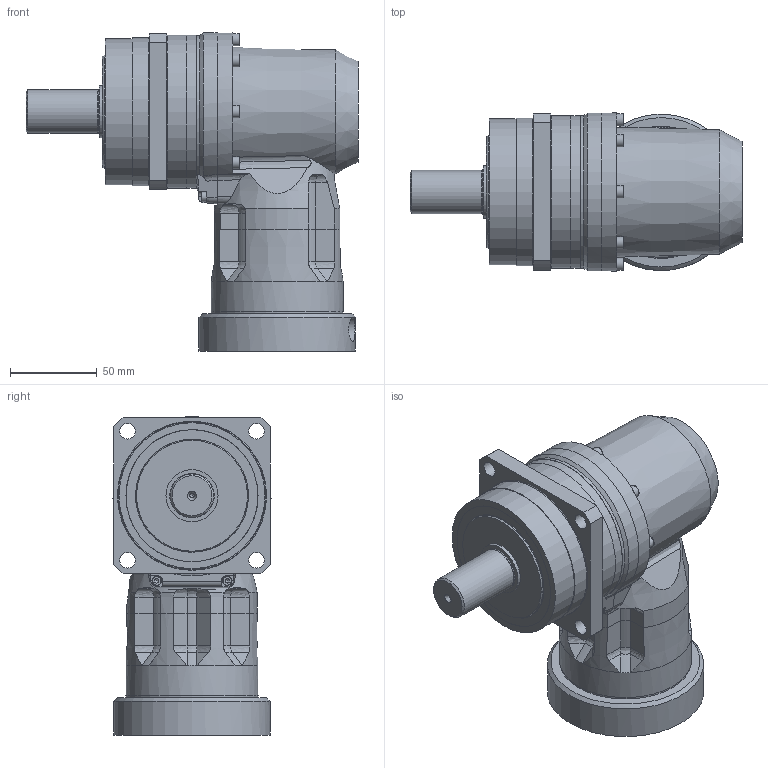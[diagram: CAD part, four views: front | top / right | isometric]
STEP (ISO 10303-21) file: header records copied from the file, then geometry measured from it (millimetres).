
FILE_DESCRIPTION(/* description */ ('ANFX-PK120N-3-E11G'),/* implementation_level */ '2;1');
FILE_NAME(/* name */ 'C:\Users\ADMINI~1\AppData\Local\Temp\MM581880_ANFX-PK120N-3-E11G.stp',/* time_stamp */ '2018-07-11T14:20:01+02:00',/* author */ ('Max'),/* organization */ (''),/* preprocessor_version */ 'ST-DEVELOPER v17',/* originating_system */ 'Autodesk Inventor 2018',/* authorisation */ '');
FILE_SCHEMA (('AUTOMOTIVE_DESIGN { 1 0 10303 214 3 1 1 }'));
Length unit declared in the file: millimetre
Products named in the file (28): MM581594; MMBG0004105; MMCM057LG; MMAF787LG; M204639; M204639-1; M204639-2; M204639-3; M204639-4; MMAP6499G; 202471; M530A30508---G; 211458; 205792; 200409; MMBG0004078; MMCL445LG; MMCM226LG; MAX4840G; MAW8381G; MMBG0004116; MMAF790LG; 212098; 203366; MMAP1654G; 133581; MAW8386G; 200458
Assembly tree (64 placements, depth 4):
  MM581594
    MMBG0004105
      MMCM057LG
      MMAF787LG
      M204639
        M204639-1
        M204639-2
        M204639-3  x2
        M204639-4  x12
      MMAP6499G
      202471
      M530A30508---G
      211458  x2
      205792  x8
      200409  x7
    MMBG0004078
      MMCL445LG
      MMCM226LG
      MAX4840G
      MAW8381G
    MMBG0004116
      MMAF790LG
      212098  x8
      203366  x2
      MMAP1654G
    133581
    MAW8386G
    200458  x4
Bounding box: 191 x 90.93 x 183.04 mm (x, y, z)
Volume: 757530.3 mm3; surface area: 262197.6 mm2
Topology: 102 solids, 102 shells, 1115 faces, 3094 edges, 2174 vertices
Faces by surface type: plane 509, cylinder 291, cone 139, torus 70, bspline 53, sphere 53
Full cylindrical faces by diameter (mm): 2 x1, 2.459 x12, 2.5 x1, 3 x10, 3.242 x16, 3.4 x10, 3.5 x8, 4 x16, 4.134 x12, 4.5 x16, 5 x4, 5.5 x14, 6.5 x8, 7 x16, 8.5 x4, 8.566 x2, 9 x4, 9.8 x1, 10 x5, 10.2 x1, 10.4 x1, 12 x1, 14 x1, 15 x2, 16.5 x1, 24 x1, 25 x1, 28 x1, 28.6 x1, 29 x1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
Entity records: 26533 total; most frequent: CARTESIAN_POINT 5761, DIRECTION 4446, ORIENTED_EDGE 3888, EDGE_CURVE 1944, AXIS2_PLACEMENT_3D 1900, VERTEX_POINT 1450, CIRCLE 1094, EDGE_LOOP 972
